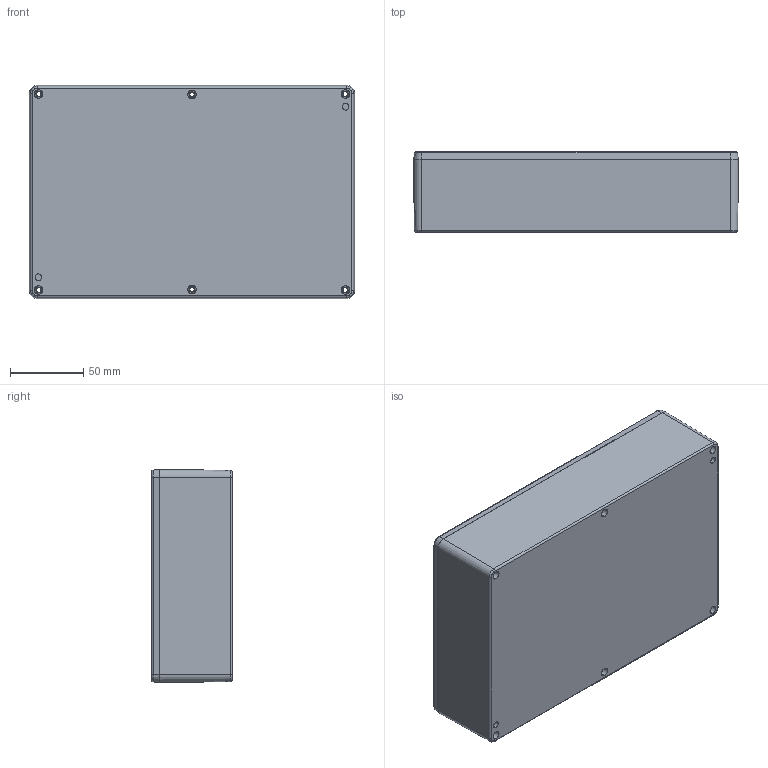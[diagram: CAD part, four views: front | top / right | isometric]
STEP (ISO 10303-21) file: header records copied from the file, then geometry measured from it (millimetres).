
FILE_DESCRIPTION (( 'STEP AP203' ), '1' );
FILE_NAME ('SE-333-0-0.STEP', '2020-05-07T13:54:42', ( '' ), ( '' ), 'SwSTEP 2.0', 'SolidWorks 2020', '' );
FILE_SCHEMA (( 'CONFIG_CONTROL_DESIGN' ));
Length unit declared in the file: millimetre
Products named in the file (3): SE-333-P-2; SE-333-P-1; SE-333-0-0
Assembly tree (2 placements, depth 2):
  SE-333-0-0
    SE-333-P-2
    SE-333-P-1
Bounding box: 222.5 x 55 x 146.1 mm (x, y, z)
Volume: 320536.4 mm3; surface area: 217356.1 mm2
Topology: 2 solids, 2 shells, 387 faces, 1051 edges, 691 vertices
Faces by surface type: plane 183, cone 89, bspline 75, cylinder 32, torus 8
Entity records: 15283 total; most frequent: CARTESIAN_POINT 5452, ORIENTED_EDGE 2102, DIRECTION 1772, EDGE_CURVE 1051, VERTEX_POINT 691, VECTOR 662, LINE 662, AXIS2_PLACEMENT_3D 555
